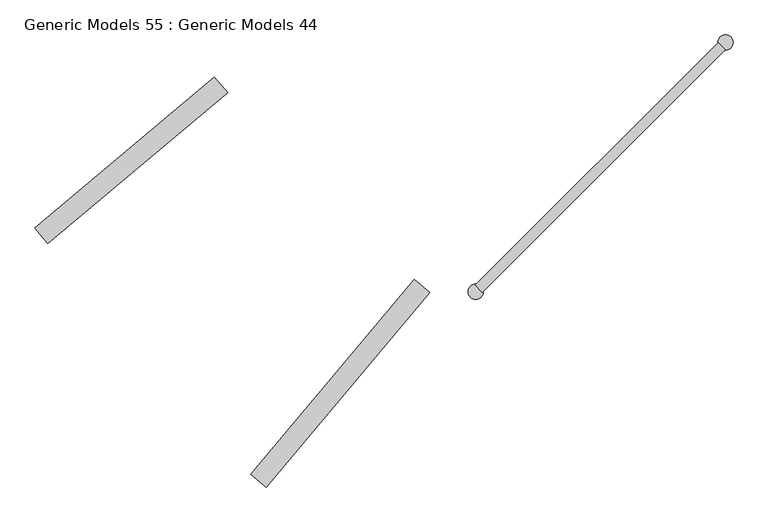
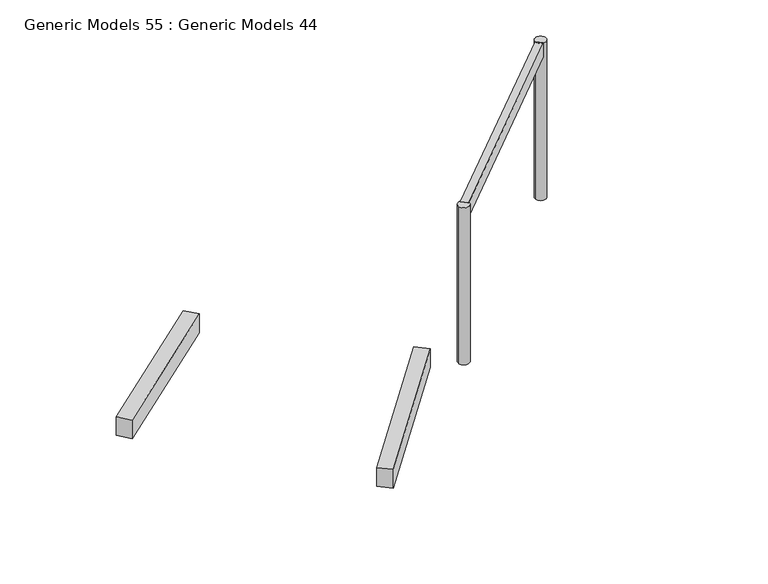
"""IFC4 building model written with IfcOpenShell, lengths in millimetres: proxy geometry, Generic Models 55 : Generic Models 44."""

from ifc_helpers import new_model, si_unit, point, frame, frame_2d, origin, place, context, project, spatial, polyline, circle_curve, trimmed, segment, composite_curve, outline, extrude, source, transform, mapped, element, save


def generic_models_55_generic_models_44_996fc1ee(model_context):
    return source(origin(), model_context, "Body", "SweptSolid", [
        extrude(outline(polyline([(-74083.5306016, -35737.0994253), (-74236.7394903, -35608.5419033), (-72625.7121377, -33688.5942681), (-72472.503249, -33817.1517901), (-74083.5306016, -35737.0994253)])), frame((0.0, 0.0, 42770.0), z_axis=(0.0, 0.0, 1.0), x_axis=(1.0, 0.0, 0.0)), (0.0, 0.0, 1.0), 268.5053554),
        extrude(outline(polyline([(-76232.5574432, -33333.9533005), (-76361.1149652, -33180.7444118), (-74592.7472907, -31696.9077484), (-74464.1897688, -31850.116637), (-76232.5574432, -33333.9533005)])), frame((0.0, 0.0, 42770.0), z_axis=(0.0, 0.0, 1.0), x_axis=(1.0, 0.0, 0.0)), (0.0, 0.0, 1.0), 268.5053554),
        extrude(outline(polyline([(-71954.7209239, -33817.7796088), (-72025.431602, -33747.0689307), (-69632.7165645, -31354.3538932), (-69562.0058864, -31425.0645713), (-71954.7209239, -33817.7796088)])), frame((0.0, 0.0, 44746.1646464), z_axis=(0.0, 0.0, 1.0), x_axis=(1.0, 0.0, 0.0)), (0.0, 0.0, 1.0), 195.4634247),
        extrude(outline(composite_curve([segment(trimmed(circle_curve(frame_2d((-72019.7881253, -33810.9678051)), 75.0), [point((-72094.7881253, -33810.9678051))], [point((-71944.7881253, -33810.9678051))], False, "CARTESIAN"), True, "CONTINUOUS"), segment(trimmed(circle_curve(frame_2d((-72019.7881253, -33810.9678051)), 75.0), [point((-71944.7881253, -33810.9678051))], [point((-72094.7881253, -33810.9678051))], False, "CARTESIAN"), True, "CONTINUOUS")], self_intersect=False)), frame((0.0, 0.0, 42695.9057084), z_axis=(0.0, 0.0, 1.0), x_axis=(1.0, 0.0, 0.0)), (0.0, 0.0, 1.0), 2245.7223627),
        extrude(outline(composite_curve([segment(trimmed(circle_curve(frame_2d((-69559.599396, -31353.5552475)), 75.0), [point((-69634.599396, -31353.5552475))], [point((-69484.599396, -31353.5552475))], False, "CARTESIAN"), True, "CONTINUOUS"), segment(trimmed(circle_curve(frame_2d((-69559.599396, -31353.5552475)), 75.0), [point((-69484.599396, -31353.5552475))], [point((-69634.599396, -31353.5552475))], False, "CARTESIAN"), True, "CONTINUOUS")], self_intersect=False)), frame((0.0, 0.0, 42695.9057084), z_axis=(0.0, 0.0, 1.0), x_axis=(1.0, 0.0, 0.0)), (0.0, 0.0, 1.0), 2245.7223627),
    ])


if __name__ == "__main__":
    model = new_model("IFC4")
    model_context = context("Model", 3, world=origin())
    ifc_project = project(units=[si_unit("LENGTHUNIT", "METRE", prefix="MILLI")], contexts=[model_context])
    site = spatial("IfcSite", under=ifc_project)
    building = spatial("IfcBuilding", under=site)
    placement = place(None, origin())
    generic_models_55_generic_models_44_shape = generic_models_55_generic_models_44_996fc1ee(model_context)
    element("IfcBuildingElementProxy", 1, Name="Generic Models 55 : Generic Models 44", ObjectType="Generic Models 55 : Generic Models 44", at=placement, inside=building, context=model_context, shape_type="MappedRepresentation", body=[
        mapped(generic_models_55_generic_models_44_shape, transform((0.0, 0.0, 0.0), x_axis=(1.0, 0.0, 0.0), y_axis=(0.0, 1.0, 0.0), z_axis=(0.0, 0.0, 1.0))),
    ])
    save(model, "model.ifc")
